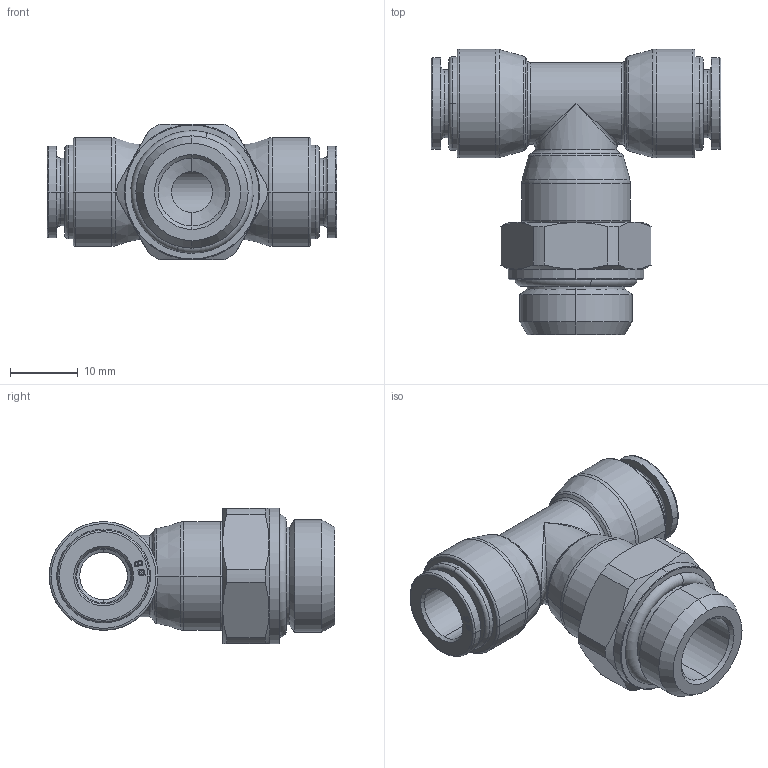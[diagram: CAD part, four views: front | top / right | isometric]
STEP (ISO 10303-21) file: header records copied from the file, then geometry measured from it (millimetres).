
FILE_DESCRIPTION (( 'STEP AP214' ), '1' );
FILE_NAME ('5321700019A.STEP', '2024-05-10T08:45:01', ( '' ), ( '' ), 'SwSTEP 2.0', 'SolidWorks 2020', '' );
FILE_SCHEMA (( 'AUTOMOTIVE_DESIGN' ));
Length unit declared in the file: millimetre
Products named in the file (1): 5321700019A
Bounding box: 42.6 x 42 x 20 mm (x, y, z)
Volume: 9400.7 mm3; surface area: 6156.7 mm2
Topology: 1 solids, 1 shells, 241 faces, 567 edges, 344 vertices
Faces by surface type: bspline 66, cylinder 47, plane 46, torus 42, cone 40
Entity records: 12650 total; most frequent: CARTESIAN_POINT 4831, ORIENTED_EDGE 1126, DIRECTION 957, EDGE_CURVE 563, AXIS2_PLACEMENT_3D 378, VERTEX_POINT 344, EDGE_LOOP 265, UNCERTAINTY_MEASURE_WITH_UNIT 244
